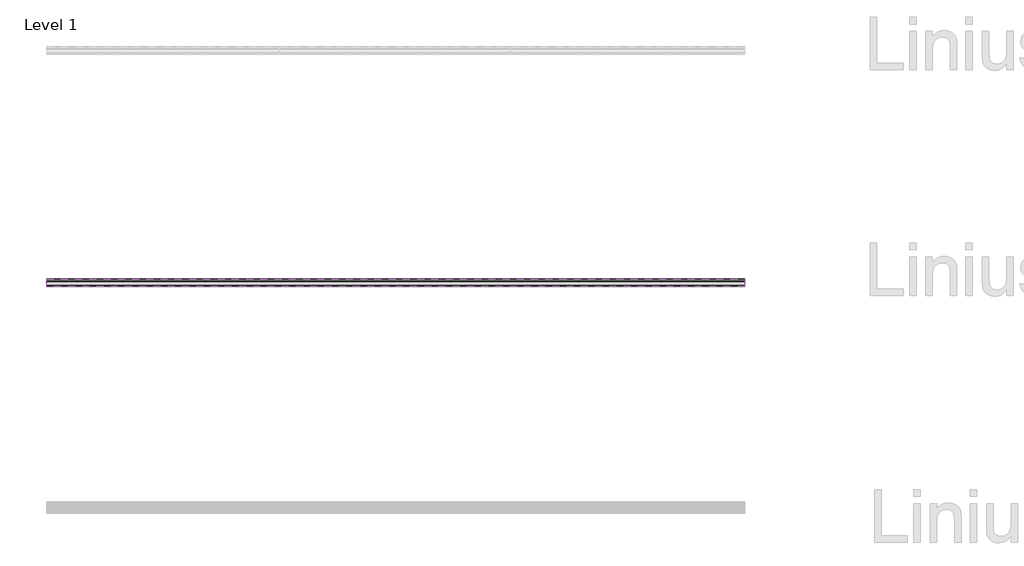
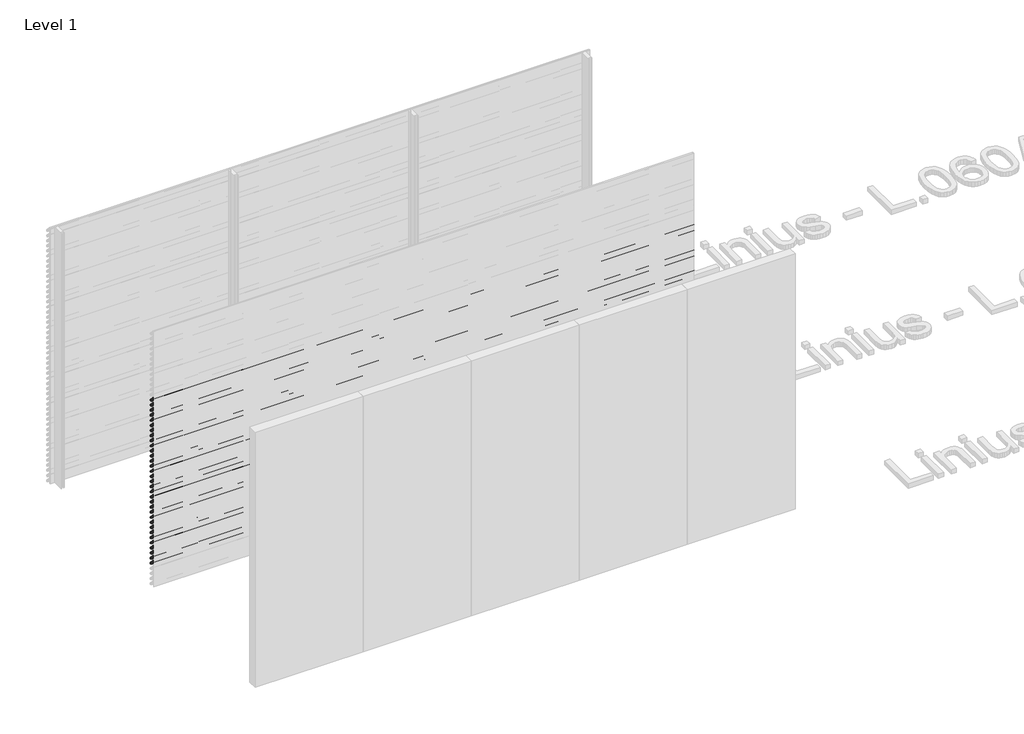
# One storey, part 37 of 153: 33 proxies.
"""IFC4 building model written with IfcOpenShell, lengths in millimetres."""

from ifc_helpers import new_model, si_unit, point, frame, frame_2d, origin, place, context, project, spatial, polyline, circle_curve, trimmed, segment, composite_curve, outline, extrude, element, save

model = new_model("IFC4")

# Units and contexts
model_context = context("Model", 3, world=origin())
ifc_project = project(units=[si_unit("LENGTHUNIT", "METRE", prefix="MILLI")], contexts=[model_context])

# Site, building, storey
site = spatial("IfcSite", under=ifc_project)
building = spatial("IfcBuilding", under=site)
storey = spatial("IfcBuildingStorey", under=building, Name="Level 1", Elevation=0.0)

# Proxies
placement = place(None, origin())
element("IfcBuildingElementProxy", 1, Name="Wall Sweeps", at=placement, inside=storey, context=model_context, shape_type="SweptSolid", body=[
    extrude(outline(composite_curve([segment(polyline([(11985.0540136, 2220.0), (11999.874191, 2218.7034025), (12049.0540136, 2165.0102749), (12049.0540136, 2153.6108187)]), True, "CONTINUOUS"), segment(trimmed(circle_curve(frame_2d((12045.7883652, 2153.897153)), 3.2781774), [point((12049.0540136, 2153.6108187))], [point((12046.4639442, 2150.6893438))], False, "CARTESIAN"), True, "CONTINUOUS"), segment(polyline([(12046.4639442, 2150.6893438), (12034.1895723, 2151.6282758), (11985.0540136, 2205.2730773), (11985.0540136, 2220.0)]), True, "CONTINUOUS")], self_intersect=False), holes=[composite_curve([segment(polyline([(11999.1621773, 2217.2599659), (11986.5540136, 2218.3630372), (11986.5540136, 2205.856213), (12034.8952036, 2153.0786805), (12046.3312542, 2152.2038762)]), True, "CONTINUOUS"), segment(trimmed(circle_curve(frame_2d((12045.7883652, 2153.897153)), 1.7781774), [point((12046.3312542, 2152.2038762))], [point((12047.5540136, 2153.6864389))], True, "CARTESIAN"), True, "CONTINUOUS"), segment(polyline([(12047.5540136, 2153.6864389), (12047.5540136, 2164.4271392), (11999.1621773, 2217.2599659)]), True, "CONTINUOUS")], self_intersect=False)]), frame((44966.6208097, 0.0, 0.0), z_axis=(1.0, 0.0, 0.0), x_axis=(0.0, 1.0, 0.0)), (0.0, 0.0, 1.0), 6000.0),
])
element("IfcBuildingElementProxy", 2, Name="Wall Sweeps", at=placement, inside=storey, context=model_context, shape_type="SweptSolid", body=[
    extrude(outline(composite_curve([segment(polyline([(11985.0540136, 2160.0), (11999.874191, 2158.7034025), (12049.0540136, 2105.0102749), (12049.0540136, 2093.6108187)]), True, "CONTINUOUS"), segment(trimmed(circle_curve(frame_2d((12045.7883652, 2093.897153)), 3.2781774), [point((12049.0540136, 2093.6108187))], [point((12046.4639442, 2090.6893438))], False, "CARTESIAN"), True, "CONTINUOUS"), segment(polyline([(12046.4639442, 2090.6893438), (12034.1895723, 2091.6282758), (11985.0540136, 2145.2730773), (11985.0540136, 2160.0)]), True, "CONTINUOUS")], self_intersect=False), holes=[composite_curve([segment(polyline([(11999.1621773, 2157.2599659), (11986.5540136, 2158.3630372), (11986.5540136, 2145.856213), (12034.8952036, 2093.0786805), (12046.3312542, 2092.2038762)]), True, "CONTINUOUS"), segment(trimmed(circle_curve(frame_2d((12045.7883652, 2093.897153)), 1.7781774), [point((12046.3312542, 2092.2038762))], [point((12047.5540136, 2093.6864389))], True, "CARTESIAN"), True, "CONTINUOUS"), segment(polyline([(12047.5540136, 2093.6864389), (12047.5540136, 2104.4271392), (11999.1621773, 2157.2599659)]), True, "CONTINUOUS")], self_intersect=False)]), frame((44966.6208097, 0.0, 0.0), z_axis=(1.0, 0.0, 0.0), x_axis=(0.0, 1.0, 0.0)), (0.0, 0.0, 1.0), 6000.0),
])
element("IfcBuildingElementProxy", 3, Name="Wall Sweeps", at=placement, inside=storey, context=model_context, shape_type="SweptSolid", body=[
    extrude(outline(composite_curve([segment(polyline([(11985.0540136, 2100.0), (11999.874191, 2098.7034025), (12049.0540136, 2045.0102749), (12049.0540136, 2033.6108187)]), True, "CONTINUOUS"), segment(trimmed(circle_curve(frame_2d((12045.7883652, 2033.897153)), 3.2781774), [point((12049.0540136, 2033.6108187))], [point((12046.4639442, 2030.6893438))], False, "CARTESIAN"), True, "CONTINUOUS"), segment(polyline([(12046.4639442, 2030.6893438), (12034.1895723, 2031.6282758), (11985.0540136, 2085.2730773), (11985.0540136, 2100.0)]), True, "CONTINUOUS")], self_intersect=False), holes=[composite_curve([segment(polyline([(11999.1621773, 2097.2599659), (11986.5540136, 2098.3630372), (11986.5540136, 2085.856213), (12034.8952036, 2033.0786805), (12046.3312542, 2032.2038762)]), True, "CONTINUOUS"), segment(trimmed(circle_curve(frame_2d((12045.7883652, 2033.897153)), 1.7781774), [point((12046.3312542, 2032.2038762))], [point((12047.5540136, 2033.6864389))], True, "CARTESIAN"), True, "CONTINUOUS"), segment(polyline([(12047.5540136, 2033.6864389), (12047.5540136, 2044.4271392), (11999.1621773, 2097.2599659)]), True, "CONTINUOUS")], self_intersect=False)]), frame((44966.6208097, 0.0, 0.0), z_axis=(1.0, 0.0, 0.0), x_axis=(0.0, 1.0, 0.0)), (0.0, 0.0, 1.0), 6000.0),
])
element("IfcBuildingElementProxy", 4, Name="Wall Sweeps", at=placement, inside=storey, context=model_context, shape_type="SweptSolid", body=[
    extrude(outline(composite_curve([segment(polyline([(11985.0540136, 2040.0), (11999.874191, 2038.7034025), (12049.0540136, 1985.0102749), (12049.0540136, 1973.6108187)]), True, "CONTINUOUS"), segment(trimmed(circle_curve(frame_2d((12045.7883652, 1973.897153)), 3.2781774), [point((12049.0540136, 1973.6108187))], [point((12046.4639442, 1970.6893438))], False, "CARTESIAN"), True, "CONTINUOUS"), segment(polyline([(12046.4639442, 1970.6893438), (12034.1895723, 1971.6282758), (11985.0540136, 2025.2730773), (11985.0540136, 2040.0)]), True, "CONTINUOUS")], self_intersect=False), holes=[composite_curve([segment(polyline([(11999.1621773, 2037.2599659), (11986.5540136, 2038.3630372), (11986.5540136, 2025.856213), (12034.8952036, 1973.0786805), (12046.3312542, 1972.2038762)]), True, "CONTINUOUS"), segment(trimmed(circle_curve(frame_2d((12045.7883652, 1973.897153)), 1.7781774), [point((12046.3312542, 1972.2038762))], [point((12047.5540136, 1973.6864389))], True, "CARTESIAN"), True, "CONTINUOUS"), segment(polyline([(12047.5540136, 1973.6864389), (12047.5540136, 1984.4271392), (11999.1621773, 2037.2599659)]), True, "CONTINUOUS")], self_intersect=False)]), frame((44966.6208097, 0.0, 0.0), z_axis=(1.0, 0.0, 0.0), x_axis=(0.0, 1.0, 0.0)), (0.0, 0.0, 1.0), 6000.0),
])
element("IfcBuildingElementProxy", 5, Name="Wall Sweeps", at=placement, inside=storey, context=model_context, shape_type="SweptSolid", body=[
    extrude(outline(composite_curve([segment(polyline([(11985.0540136, 1980.0), (11999.874191, 1978.7034025), (12049.0540136, 1925.0102749), (12049.0540136, 1913.6108187)]), True, "CONTINUOUS"), segment(trimmed(circle_curve(frame_2d((12045.7883652, 1913.897153)), 3.2781774), [point((12049.0540136, 1913.6108187))], [point((12046.4639442, 1910.6893438))], False, "CARTESIAN"), True, "CONTINUOUS"), segment(polyline([(12046.4639442, 1910.6893438), (12034.1895723, 1911.6282758), (11985.0540136, 1965.2730773), (11985.0540136, 1980.0)]), True, "CONTINUOUS")], self_intersect=False), holes=[composite_curve([segment(polyline([(11999.1621773, 1977.2599659), (11986.5540136, 1978.3630372), (11986.5540136, 1965.856213), (12034.8952036, 1913.0786805), (12046.3312542, 1912.2038762)]), True, "CONTINUOUS"), segment(trimmed(circle_curve(frame_2d((12045.7883652, 1913.897153)), 1.7781774), [point((12046.3312542, 1912.2038762))], [point((12047.5540136, 1913.6864389))], True, "CARTESIAN"), True, "CONTINUOUS"), segment(polyline([(12047.5540136, 1913.6864389), (12047.5540136, 1924.4271392), (11999.1621773, 1977.2599659)]), True, "CONTINUOUS")], self_intersect=False)]), frame((44966.6208097, 0.0, 0.0), z_axis=(1.0, 0.0, 0.0), x_axis=(0.0, 1.0, 0.0)), (0.0, 0.0, 1.0), 6000.0),
])
element("IfcBuildingElementProxy", 6, Name="Wall Sweeps", at=placement, inside=storey, context=model_context, shape_type="SweptSolid", body=[
    extrude(outline(composite_curve([segment(polyline([(11985.0540136, 1920.0), (11999.874191, 1918.7034025), (12049.0540136, 1865.0102749), (12049.0540136, 1853.6108187)]), True, "CONTINUOUS"), segment(trimmed(circle_curve(frame_2d((12045.7883652, 1853.897153)), 3.2781774), [point((12049.0540136, 1853.6108187))], [point((12046.4639442, 1850.6893438))], False, "CARTESIAN"), True, "CONTINUOUS"), segment(polyline([(12046.4639442, 1850.6893438), (12034.1895723, 1851.6282758), (11985.0540136, 1905.2730773), (11985.0540136, 1920.0)]), True, "CONTINUOUS")], self_intersect=False), holes=[composite_curve([segment(polyline([(11999.1621773, 1917.2599659), (11986.5540136, 1918.3630372), (11986.5540136, 1905.856213), (12034.8952036, 1853.0786805), (12046.3312542, 1852.2038762)]), True, "CONTINUOUS"), segment(trimmed(circle_curve(frame_2d((12045.7883652, 1853.897153)), 1.7781774), [point((12046.3312542, 1852.2038762))], [point((12047.5540136, 1853.6864389))], True, "CARTESIAN"), True, "CONTINUOUS"), segment(polyline([(12047.5540136, 1853.6864389), (12047.5540136, 1864.4271392), (11999.1621773, 1917.2599659)]), True, "CONTINUOUS")], self_intersect=False)]), frame((44966.6208097, 0.0, 0.0), z_axis=(1.0, 0.0, 0.0), x_axis=(0.0, 1.0, 0.0)), (0.0, 0.0, 1.0), 6000.0),
])
element("IfcBuildingElementProxy", 7, Name="Wall Sweeps", at=placement, inside=storey, context=model_context, shape_type="SweptSolid", body=[
    extrude(outline(composite_curve([segment(polyline([(11985.0540136, 1860.0), (11999.874191, 1858.7034025), (12049.0540136, 1805.0102749), (12049.0540136, 1793.6108187)]), True, "CONTINUOUS"), segment(trimmed(circle_curve(frame_2d((12045.7883652, 1793.897153)), 3.2781774), [point((12049.0540136, 1793.6108187))], [point((12046.4639442, 1790.6893438))], False, "CARTESIAN"), True, "CONTINUOUS"), segment(polyline([(12046.4639442, 1790.6893438), (12034.1895723, 1791.6282758), (11985.0540136, 1845.2730773), (11985.0540136, 1860.0)]), True, "CONTINUOUS")], self_intersect=False), holes=[composite_curve([segment(polyline([(11999.1621773, 1857.2599659), (11986.5540136, 1858.3630372), (11986.5540136, 1845.856213), (12034.8952036, 1793.0786805), (12046.3312542, 1792.2038762)]), True, "CONTINUOUS"), segment(trimmed(circle_curve(frame_2d((12045.7883652, 1793.897153)), 1.7781774), [point((12046.3312542, 1792.2038762))], [point((12047.5540136, 1793.6864389))], True, "CARTESIAN"), True, "CONTINUOUS"), segment(polyline([(12047.5540136, 1793.6864389), (12047.5540136, 1804.4271392), (11999.1621773, 1857.2599659)]), True, "CONTINUOUS")], self_intersect=False)]), frame((44966.6208097, 0.0, 0.0), z_axis=(1.0, 0.0, 0.0), x_axis=(0.0, 1.0, 0.0)), (0.0, 0.0, 1.0), 6000.0),
])
element("IfcBuildingElementProxy", 8, Name="Wall Sweeps", at=placement, inside=storey, context=model_context, shape_type="SweptSolid", body=[
    extrude(outline(composite_curve([segment(polyline([(11985.0540136, 1800.0), (11999.874191, 1798.7034025), (12049.0540136, 1745.0102749), (12049.0540136, 1733.6108187)]), True, "CONTINUOUS"), segment(trimmed(circle_curve(frame_2d((12045.7883652, 1733.897153)), 3.2781774), [point((12049.0540136, 1733.6108187))], [point((12046.4639442, 1730.6893438))], False, "CARTESIAN"), True, "CONTINUOUS"), segment(polyline([(12046.4639442, 1730.6893438), (12034.1895723, 1731.6282758), (11985.0540136, 1785.2730773), (11985.0540136, 1800.0)]), True, "CONTINUOUS")], self_intersect=False), holes=[composite_curve([segment(polyline([(11999.1621773, 1797.2599659), (11986.5540136, 1798.3630372), (11986.5540136, 1785.856213), (12034.8952036, 1733.0786805), (12046.3312542, 1732.2038762)]), True, "CONTINUOUS"), segment(trimmed(circle_curve(frame_2d((12045.7883652, 1733.897153)), 1.7781774), [point((12046.3312542, 1732.2038762))], [point((12047.5540136, 1733.6864389))], True, "CARTESIAN"), True, "CONTINUOUS"), segment(polyline([(12047.5540136, 1733.6864389), (12047.5540136, 1744.4271392), (11999.1621773, 1797.2599659)]), True, "CONTINUOUS")], self_intersect=False)]), frame((44966.6208097, 0.0, 0.0), z_axis=(1.0, 0.0, 0.0), x_axis=(0.0, 1.0, 0.0)), (0.0, 0.0, 1.0), 6000.0),
])
element("IfcBuildingElementProxy", 9, Name="Wall Sweeps", at=placement, inside=storey, context=model_context, shape_type="SweptSolid", body=[
    extrude(outline(composite_curve([segment(polyline([(11985.0540136, 1740.0), (11999.874191, 1738.7034025), (12049.0540136, 1685.0102749), (12049.0540136, 1673.6108187)]), True, "CONTINUOUS"), segment(trimmed(circle_curve(frame_2d((12045.7883652, 1673.897153)), 3.2781774), [point((12049.0540136, 1673.6108187))], [point((12046.4639442, 1670.6893438))], False, "CARTESIAN"), True, "CONTINUOUS"), segment(polyline([(12046.4639442, 1670.6893438), (12034.1895723, 1671.6282758), (11985.0540136, 1725.2730773), (11985.0540136, 1740.0)]), True, "CONTINUOUS")], self_intersect=False), holes=[composite_curve([segment(polyline([(11999.1621773, 1737.2599659), (11986.5540136, 1738.3630372), (11986.5540136, 1725.856213), (12034.8952036, 1673.0786805), (12046.3312542, 1672.2038762)]), True, "CONTINUOUS"), segment(trimmed(circle_curve(frame_2d((12045.7883652, 1673.897153)), 1.7781774), [point((12046.3312542, 1672.2038762))], [point((12047.5540136, 1673.6864389))], True, "CARTESIAN"), True, "CONTINUOUS"), segment(polyline([(12047.5540136, 1673.6864389), (12047.5540136, 1684.4271392), (11999.1621773, 1737.2599659)]), True, "CONTINUOUS")], self_intersect=False)]), frame((44966.6208097, 0.0, 0.0), z_axis=(1.0, 0.0, 0.0), x_axis=(0.0, 1.0, 0.0)), (0.0, 0.0, 1.0), 6000.0),
])
element("IfcBuildingElementProxy", 10, Name="Wall Sweeps", at=placement, inside=storey, context=model_context, shape_type="SweptSolid", body=[
    extrude(outline(composite_curve([segment(polyline([(11985.0540136, 1680.0), (11999.874191, 1678.7034025), (12049.0540136, 1625.0102749), (12049.0540136, 1613.6108187)]), True, "CONTINUOUS"), segment(trimmed(circle_curve(frame_2d((12045.7883652, 1613.897153)), 3.2781774), [point((12049.0540136, 1613.6108187))], [point((12046.4639442, 1610.6893438))], False, "CARTESIAN"), True, "CONTINUOUS"), segment(polyline([(12046.4639442, 1610.6893438), (12034.1895723, 1611.6282758), (11985.0540136, 1665.2730773), (11985.0540136, 1680.0)]), True, "CONTINUOUS")], self_intersect=False), holes=[composite_curve([segment(polyline([(11999.1621773, 1677.2599659), (11986.5540136, 1678.3630372), (11986.5540136, 1665.856213), (12034.8952036, 1613.0786805), (12046.3312542, 1612.2038762)]), True, "CONTINUOUS"), segment(trimmed(circle_curve(frame_2d((12045.7883652, 1613.897153)), 1.7781774), [point((12046.3312542, 1612.2038762))], [point((12047.5540136, 1613.6864389))], True, "CARTESIAN"), True, "CONTINUOUS"), segment(polyline([(12047.5540136, 1613.6864389), (12047.5540136, 1624.4271392), (11999.1621773, 1677.2599659)]), True, "CONTINUOUS")], self_intersect=False)]), frame((44966.6208097, 0.0, 0.0), z_axis=(1.0, 0.0, 0.0), x_axis=(0.0, 1.0, 0.0)), (0.0, 0.0, 1.0), 6000.0),
])
element("IfcBuildingElementProxy", 11, Name="Wall Sweeps", at=placement, inside=storey, context=model_context, shape_type="SweptSolid", body=[
    extrude(outline(composite_curve([segment(polyline([(11985.0540136, 1620.0), (11999.874191, 1618.7034025), (12049.0540136, 1565.0102749), (12049.0540136, 1553.6108187)]), True, "CONTINUOUS"), segment(trimmed(circle_curve(frame_2d((12045.7883652, 1553.897153)), 3.2781774), [point((12049.0540136, 1553.6108187))], [point((12046.4639442, 1550.6893438))], False, "CARTESIAN"), True, "CONTINUOUS"), segment(polyline([(12046.4639442, 1550.6893438), (12034.1895723, 1551.6282758), (11985.0540136, 1605.2730773), (11985.0540136, 1620.0)]), True, "CONTINUOUS")], self_intersect=False), holes=[composite_curve([segment(polyline([(11999.1621773, 1617.2599659), (11986.5540136, 1618.3630372), (11986.5540136, 1605.856213), (12034.8952036, 1553.0786805), (12046.3312542, 1552.2038762)]), True, "CONTINUOUS"), segment(trimmed(circle_curve(frame_2d((12045.7883652, 1553.897153)), 1.7781774), [point((12046.3312542, 1552.2038762))], [point((12047.5540136, 1553.6864389))], True, "CARTESIAN"), True, "CONTINUOUS"), segment(polyline([(12047.5540136, 1553.6864389), (12047.5540136, 1564.4271392), (11999.1621773, 1617.2599659)]), True, "CONTINUOUS")], self_intersect=False)]), frame((44966.6208097, 0.0, 0.0), z_axis=(1.0, 0.0, 0.0), x_axis=(0.0, 1.0, 0.0)), (0.0, 0.0, 1.0), 6000.0),
])
element("IfcBuildingElementProxy", 12, Name="Wall Sweeps", at=placement, inside=storey, context=model_context, shape_type="SweptSolid", body=[
    extrude(outline(composite_curve([segment(polyline([(11985.0540136, 1560.0), (11999.874191, 1558.7034025), (12049.0540136, 1505.0102749), (12049.0540136, 1493.6108187)]), True, "CONTINUOUS"), segment(trimmed(circle_curve(frame_2d((12045.7883652, 1493.897153)), 3.2781774), [point((12049.0540136, 1493.6108187))], [point((12046.4639442, 1490.6893438))], False, "CARTESIAN"), True, "CONTINUOUS"), segment(polyline([(12046.4639442, 1490.6893438), (12034.1895723, 1491.6282758), (11985.0540136, 1545.2730773), (11985.0540136, 1560.0)]), True, "CONTINUOUS")], self_intersect=False), holes=[composite_curve([segment(polyline([(11999.1621773, 1557.2599659), (11986.5540136, 1558.3630372), (11986.5540136, 1545.856213), (12034.8952036, 1493.0786805), (12046.3312542, 1492.2038762)]), True, "CONTINUOUS"), segment(trimmed(circle_curve(frame_2d((12045.7883652, 1493.897153)), 1.7781774), [point((12046.3312542, 1492.2038762))], [point((12047.5540136, 1493.6864389))], True, "CARTESIAN"), True, "CONTINUOUS"), segment(polyline([(12047.5540136, 1493.6864389), (12047.5540136, 1504.4271392), (11999.1621773, 1557.2599659)]), True, "CONTINUOUS")], self_intersect=False)]), frame((44966.6208097, 0.0, 0.0), z_axis=(1.0, 0.0, 0.0), x_axis=(0.0, 1.0, 0.0)), (0.0, 0.0, 1.0), 6000.0),
])
element("IfcBuildingElementProxy", 13, Name="Wall Sweeps", at=placement, inside=storey, context=model_context, shape_type="SweptSolid", body=[
    extrude(outline(composite_curve([segment(polyline([(11985.0540136, 1500.0), (11999.874191, 1498.7034025), (12049.0540136, 1445.0102749), (12049.0540136, 1433.6108187)]), True, "CONTINUOUS"), segment(trimmed(circle_curve(frame_2d((12045.7883652, 1433.897153)), 3.2781774), [point((12049.0540136, 1433.6108187))], [point((12046.4639442, 1430.6893438))], False, "CARTESIAN"), True, "CONTINUOUS"), segment(polyline([(12046.4639442, 1430.6893438), (12034.1895723, 1431.6282758), (11985.0540136, 1485.2730773), (11985.0540136, 1500.0)]), True, "CONTINUOUS")], self_intersect=False), holes=[composite_curve([segment(polyline([(11999.1621773, 1497.2599659), (11986.5540136, 1498.3630372), (11986.5540136, 1485.856213), (12034.8952036, 1433.0786805), (12046.3312542, 1432.2038762)]), True, "CONTINUOUS"), segment(trimmed(circle_curve(frame_2d((12045.7883652, 1433.897153)), 1.7781774), [point((12046.3312542, 1432.2038762))], [point((12047.5540136, 1433.6864389))], True, "CARTESIAN"), True, "CONTINUOUS"), segment(polyline([(12047.5540136, 1433.6864389), (12047.5540136, 1444.4271392), (11999.1621773, 1497.2599659)]), True, "CONTINUOUS")], self_intersect=False)]), frame((44966.6208097, 0.0, 0.0), z_axis=(1.0, 0.0, 0.0), x_axis=(0.0, 1.0, 0.0)), (0.0, 0.0, 1.0), 6000.0),
])
element("IfcBuildingElementProxy", 14, Name="Wall Sweeps", at=placement, inside=storey, context=model_context, shape_type="SweptSolid", body=[
    extrude(outline(composite_curve([segment(polyline([(11985.0540136, 1440.0), (11999.874191, 1438.7034025), (12049.0540136, 1385.0102749), (12049.0540136, 1373.6108187)]), True, "CONTINUOUS"), segment(trimmed(circle_curve(frame_2d((12045.7883652, 1373.897153)), 3.2781774), [point((12049.0540136, 1373.6108187))], [point((12046.4639442, 1370.6893438))], False, "CARTESIAN"), True, "CONTINUOUS"), segment(polyline([(12046.4639442, 1370.6893438), (12034.1895723, 1371.6282758), (11985.0540136, 1425.2730773), (11985.0540136, 1440.0)]), True, "CONTINUOUS")], self_intersect=False), holes=[composite_curve([segment(polyline([(11999.1621773, 1437.2599659), (11986.5540136, 1438.3630372), (11986.5540136, 1425.856213), (12034.8952036, 1373.0786805), (12046.3312542, 1372.2038762)]), True, "CONTINUOUS"), segment(trimmed(circle_curve(frame_2d((12045.7883652, 1373.897153)), 1.7781774), [point((12046.3312542, 1372.2038762))], [point((12047.5540136, 1373.6864389))], True, "CARTESIAN"), True, "CONTINUOUS"), segment(polyline([(12047.5540136, 1373.6864389), (12047.5540136, 1384.4271392), (11999.1621773, 1437.2599659)]), True, "CONTINUOUS")], self_intersect=False)]), frame((44966.6208097, 0.0, 0.0), z_axis=(1.0, 0.0, 0.0), x_axis=(0.0, 1.0, 0.0)), (0.0, 0.0, 1.0), 6000.0),
])
element("IfcBuildingElementProxy", 15, Name="Wall Sweeps", at=placement, inside=storey, context=model_context, shape_type="SweptSolid", body=[
    extrude(outline(composite_curve([segment(polyline([(11985.0540136, 1380.0), (11999.874191, 1378.7034025), (12049.0540136, 1325.0102749), (12049.0540136, 1313.6108187)]), True, "CONTINUOUS"), segment(trimmed(circle_curve(frame_2d((12045.7883652, 1313.897153)), 3.2781774), [point((12049.0540136, 1313.6108187))], [point((12046.4639442, 1310.6893438))], False, "CARTESIAN"), True, "CONTINUOUS"), segment(polyline([(12046.4639442, 1310.6893438), (12034.1895723, 1311.6282758), (11985.0540136, 1365.2730773), (11985.0540136, 1380.0)]), True, "CONTINUOUS")], self_intersect=False), holes=[composite_curve([segment(polyline([(11999.1621773, 1377.2599659), (11986.5540136, 1378.3630372), (11986.5540136, 1365.856213), (12034.8952036, 1313.0786805), (12046.3312542, 1312.2038762)]), True, "CONTINUOUS"), segment(trimmed(circle_curve(frame_2d((12045.7883652, 1313.897153)), 1.7781774), [point((12046.3312542, 1312.2038762))], [point((12047.5540136, 1313.6864389))], True, "CARTESIAN"), True, "CONTINUOUS"), segment(polyline([(12047.5540136, 1313.6864389), (12047.5540136, 1324.4271392), (11999.1621773, 1377.2599659)]), True, "CONTINUOUS")], self_intersect=False)]), frame((44966.6208097, 0.0, 0.0), z_axis=(1.0, 0.0, 0.0), x_axis=(0.0, 1.0, 0.0)), (0.0, 0.0, 1.0), 6000.0),
])
element("IfcBuildingElementProxy", 16, Name="Wall Sweeps", at=placement, inside=storey, context=model_context, shape_type="SweptSolid", body=[
    extrude(outline(composite_curve([segment(polyline([(11985.0540136, 1320.0), (11999.874191, 1318.7034025), (12049.0540136, 1265.0102749), (12049.0540136, 1253.6108187)]), True, "CONTINUOUS"), segment(trimmed(circle_curve(frame_2d((12045.7883652, 1253.897153)), 3.2781774), [point((12049.0540136, 1253.6108187))], [point((12046.4639442, 1250.6893438))], False, "CARTESIAN"), True, "CONTINUOUS"), segment(polyline([(12046.4639442, 1250.6893438), (12034.1895723, 1251.6282758), (11985.0540136, 1305.2730773), (11985.0540136, 1320.0)]), True, "CONTINUOUS")], self_intersect=False), holes=[composite_curve([segment(polyline([(11999.1621773, 1317.2599659), (11986.5540136, 1318.3630372), (11986.5540136, 1305.856213), (12034.8952036, 1253.0786805), (12046.3312542, 1252.2038762)]), True, "CONTINUOUS"), segment(trimmed(circle_curve(frame_2d((12045.7883652, 1253.897153)), 1.7781774), [point((12046.3312542, 1252.2038762))], [point((12047.5540136, 1253.6864389))], True, "CARTESIAN"), True, "CONTINUOUS"), segment(polyline([(12047.5540136, 1253.6864389), (12047.5540136, 1264.4271392), (11999.1621773, 1317.2599659)]), True, "CONTINUOUS")], self_intersect=False)]), frame((44966.6208097, 0.0, 0.0), z_axis=(1.0, 0.0, 0.0), x_axis=(0.0, 1.0, 0.0)), (0.0, 0.0, 1.0), 6000.0),
])
element("IfcBuildingElementProxy", 17, Name="Wall Sweeps", at=placement, inside=storey, context=model_context, shape_type="SweptSolid", body=[
    extrude(outline(composite_curve([segment(polyline([(11985.0540136, 1260.0), (11999.874191, 1258.7034025), (12049.0540136, 1205.0102749), (12049.0540136, 1193.6108187)]), True, "CONTINUOUS"), segment(trimmed(circle_curve(frame_2d((12045.7883652, 1193.897153)), 3.2781774), [point((12049.0540136, 1193.6108187))], [point((12046.4639442, 1190.6893438))], False, "CARTESIAN"), True, "CONTINUOUS"), segment(polyline([(12046.4639442, 1190.6893438), (12034.1895723, 1191.6282758), (11985.0540136, 1245.2730773), (11985.0540136, 1260.0)]), True, "CONTINUOUS")], self_intersect=False), holes=[composite_curve([segment(polyline([(11999.1621773, 1257.2599659), (11986.5540136, 1258.3630372), (11986.5540136, 1245.856213), (12034.8952036, 1193.0786805), (12046.3312542, 1192.2038762)]), True, "CONTINUOUS"), segment(trimmed(circle_curve(frame_2d((12045.7883652, 1193.897153)), 1.7781774), [point((12046.3312542, 1192.2038762))], [point((12047.5540136, 1193.6864389))], True, "CARTESIAN"), True, "CONTINUOUS"), segment(polyline([(12047.5540136, 1193.6864389), (12047.5540136, 1204.4271392), (11999.1621773, 1257.2599659)]), True, "CONTINUOUS")], self_intersect=False)]), frame((44966.6208097, 0.0, 0.0), z_axis=(1.0, 0.0, 0.0), x_axis=(0.0, 1.0, 0.0)), (0.0, 0.0, 1.0), 6000.0),
])
element("IfcBuildingElementProxy", 18, Name="Wall Sweeps", at=placement, inside=storey, context=model_context, shape_type="SweptSolid", body=[
    extrude(outline(composite_curve([segment(polyline([(11985.0540136, 1200.0), (11999.874191, 1198.7034025), (12049.0540136, 1145.0102749), (12049.0540136, 1133.6108187)]), True, "CONTINUOUS"), segment(trimmed(circle_curve(frame_2d((12045.7883652, 1133.897153)), 3.2781774), [point((12049.0540136, 1133.6108187))], [point((12046.4639442, 1130.6893438))], False, "CARTESIAN"), True, "CONTINUOUS"), segment(polyline([(12046.4639442, 1130.6893438), (12034.1895723, 1131.6282758), (11985.0540136, 1185.2730773), (11985.0540136, 1200.0)]), True, "CONTINUOUS")], self_intersect=False), holes=[composite_curve([segment(polyline([(11999.1621773, 1197.2599659), (11986.5540136, 1198.3630372), (11986.5540136, 1185.856213), (12034.8952036, 1133.0786805), (12046.3312542, 1132.2038762)]), True, "CONTINUOUS"), segment(trimmed(circle_curve(frame_2d((12045.7883652, 1133.897153)), 1.7781774), [point((12046.3312542, 1132.2038762))], [point((12047.5540136, 1133.6864389))], True, "CARTESIAN"), True, "CONTINUOUS"), segment(polyline([(12047.5540136, 1133.6864389), (12047.5540136, 1144.4271392), (11999.1621773, 1197.2599659)]), True, "CONTINUOUS")], self_intersect=False)]), frame((44966.6208097, 0.0, 0.0), z_axis=(1.0, 0.0, 0.0), x_axis=(0.0, 1.0, 0.0)), (0.0, 0.0, 1.0), 6000.0),
])
element("IfcBuildingElementProxy", 19, Name="Wall Sweeps", at=placement, inside=storey, context=model_context, shape_type="SweptSolid", body=[
    extrude(outline(composite_curve([segment(polyline([(11985.0540136, 1140.0), (11999.874191, 1138.7034025), (12049.0540136, 1085.0102749), (12049.0540136, 1073.6108187)]), True, "CONTINUOUS"), segment(trimmed(circle_curve(frame_2d((12045.7883652, 1073.897153)), 3.2781774), [point((12049.0540136, 1073.6108187))], [point((12046.4639442, 1070.6893438))], False, "CARTESIAN"), True, "CONTINUOUS"), segment(polyline([(12046.4639442, 1070.6893438), (12034.1895723, 1071.6282758), (11985.0540136, 1125.2730773), (11985.0540136, 1140.0)]), True, "CONTINUOUS")], self_intersect=False), holes=[composite_curve([segment(polyline([(11999.1621773, 1137.2599659), (11986.5540136, 1138.3630372), (11986.5540136, 1125.856213), (12034.8952036, 1073.0786805), (12046.3312542, 1072.2038762)]), True, "CONTINUOUS"), segment(trimmed(circle_curve(frame_2d((12045.7883652, 1073.897153)), 1.7781774), [point((12046.3312542, 1072.2038762))], [point((12047.5540136, 1073.6864389))], True, "CARTESIAN"), True, "CONTINUOUS"), segment(polyline([(12047.5540136, 1073.6864389), (12047.5540136, 1084.4271392), (11999.1621773, 1137.2599659)]), True, "CONTINUOUS")], self_intersect=False)]), frame((44966.6208097, 0.0, 0.0), z_axis=(1.0, 0.0, 0.0), x_axis=(0.0, 1.0, 0.0)), (0.0, 0.0, 1.0), 6000.0),
])
element("IfcBuildingElementProxy", 20, Name="Wall Sweeps", at=placement, inside=storey, context=model_context, shape_type="SweptSolid", body=[
    extrude(outline(composite_curve([segment(polyline([(11985.0540136, 1080.0), (11999.874191, 1078.7034025), (12049.0540136, 1025.0102749), (12049.0540136, 1013.6108187)]), True, "CONTINUOUS"), segment(trimmed(circle_curve(frame_2d((12045.7883652, 1013.897153)), 3.2781774), [point((12049.0540136, 1013.6108187))], [point((12046.4639442, 1010.6893438))], False, "CARTESIAN"), True, "CONTINUOUS"), segment(polyline([(12046.4639442, 1010.6893438), (12034.1895723, 1011.6282758), (11985.0540136, 1065.2730773), (11985.0540136, 1080.0)]), True, "CONTINUOUS")], self_intersect=False), holes=[composite_curve([segment(polyline([(11999.1621773, 1077.2599659), (11986.5540136, 1078.3630372), (11986.5540136, 1065.856213), (12034.8952036, 1013.0786805), (12046.3312542, 1012.2038762)]), True, "CONTINUOUS"), segment(trimmed(circle_curve(frame_2d((12045.7883652, 1013.897153)), 1.7781774), [point((12046.3312542, 1012.2038762))], [point((12047.5540136, 1013.6864389))], True, "CARTESIAN"), True, "CONTINUOUS"), segment(polyline([(12047.5540136, 1013.6864389), (12047.5540136, 1024.4271392), (11999.1621773, 1077.2599659)]), True, "CONTINUOUS")], self_intersect=False)]), frame((44966.6208097, 0.0, 0.0), z_axis=(1.0, 0.0, 0.0), x_axis=(0.0, 1.0, 0.0)), (0.0, 0.0, 1.0), 6000.0),
])
element("IfcBuildingElementProxy", 21, Name="Wall Sweeps", at=placement, inside=storey, context=model_context, shape_type="SweptSolid", body=[
    extrude(outline(composite_curve([segment(polyline([(11985.0540136, 1020.0), (11999.874191, 1018.7034025), (12049.0540136, 965.0102749), (12049.0540136, 953.6108187)]), True, "CONTINUOUS"), segment(trimmed(circle_curve(frame_2d((12045.7883652, 953.897153)), 3.2781774), [point((12049.0540136, 953.6108187))], [point((12046.4639442, 950.6893438))], False, "CARTESIAN"), True, "CONTINUOUS"), segment(polyline([(12046.4639442, 950.6893438), (12034.1895723, 951.6282758), (11985.0540136, 1005.2730773), (11985.0540136, 1020.0)]), True, "CONTINUOUS")], self_intersect=False), holes=[composite_curve([segment(polyline([(11999.1621773, 1017.2599659), (11986.5540136, 1018.3630372), (11986.5540136, 1005.856213), (12034.8952036, 953.0786805), (12046.3312542, 952.2038762)]), True, "CONTINUOUS"), segment(trimmed(circle_curve(frame_2d((12045.7883652, 953.897153)), 1.7781774), [point((12046.3312542, 952.2038762))], [point((12047.5540136, 953.6864389))], True, "CARTESIAN"), True, "CONTINUOUS"), segment(polyline([(12047.5540136, 953.6864389), (12047.5540136, 964.4271392), (11999.1621773, 1017.2599659)]), True, "CONTINUOUS")], self_intersect=False)]), frame((44966.6208097, 0.0, 0.0), z_axis=(1.0, 0.0, 0.0), x_axis=(0.0, 1.0, 0.0)), (0.0, 0.0, 1.0), 6000.0),
])
element("IfcBuildingElementProxy", 22, Name="Wall Sweeps", at=placement, inside=storey, context=model_context, shape_type="SweptSolid", body=[
    extrude(outline(composite_curve([segment(polyline([(11985.0540136, 960.0), (11999.874191, 958.7034025), (12049.0540136, 905.0102749), (12049.0540136, 893.6108187)]), True, "CONTINUOUS"), segment(trimmed(circle_curve(frame_2d((12045.7883652, 893.897153)), 3.2781774), [point((12049.0540136, 893.6108187))], [point((12046.4639442, 890.6893438))], False, "CARTESIAN"), True, "CONTINUOUS"), segment(polyline([(12046.4639442, 890.6893438), (12034.1895723, 891.6282758), (11985.0540136, 945.2730773), (11985.0540136, 960.0)]), True, "CONTINUOUS")], self_intersect=False), holes=[composite_curve([segment(polyline([(11999.1621773, 957.2599659), (11986.5540136, 958.3630372), (11986.5540136, 945.856213), (12034.8952036, 893.0786805), (12046.3312542, 892.2038762)]), True, "CONTINUOUS"), segment(trimmed(circle_curve(frame_2d((12045.7883652, 893.897153)), 1.7781774), [point((12046.3312542, 892.2038762))], [point((12047.5540136, 893.6864389))], True, "CARTESIAN"), True, "CONTINUOUS"), segment(polyline([(12047.5540136, 893.6864389), (12047.5540136, 904.4271392), (11999.1621773, 957.2599659)]), True, "CONTINUOUS")], self_intersect=False)]), frame((44966.6208097, 0.0, 0.0), z_axis=(1.0, 0.0, 0.0), x_axis=(0.0, 1.0, 0.0)), (0.0, 0.0, 1.0), 6000.0),
])
element("IfcBuildingElementProxy", 23, Name="Wall Sweeps", at=placement, inside=storey, context=model_context, shape_type="SweptSolid", body=[
    extrude(outline(composite_curve([segment(polyline([(11985.0540136, 900.0), (11999.874191, 898.7034025), (12049.0540136, 845.0102749), (12049.0540136, 833.6108187)]), True, "CONTINUOUS"), segment(trimmed(circle_curve(frame_2d((12045.7883652, 833.897153)), 3.2781774), [point((12049.0540136, 833.6108187))], [point((12046.4639442, 830.6893438))], False, "CARTESIAN"), True, "CONTINUOUS"), segment(polyline([(12046.4639442, 830.6893438), (12034.1895723, 831.6282758), (11985.0540136, 885.2730773), (11985.0540136, 900.0)]), True, "CONTINUOUS")], self_intersect=False), holes=[composite_curve([segment(polyline([(11999.1621773, 897.2599659), (11986.5540136, 898.3630372), (11986.5540136, 885.856213), (12034.8952036, 833.0786805), (12046.3312542, 832.2038762)]), True, "CONTINUOUS"), segment(trimmed(circle_curve(frame_2d((12045.7883652, 833.897153)), 1.7781774), [point((12046.3312542, 832.2038762))], [point((12047.5540136, 833.6864389))], True, "CARTESIAN"), True, "CONTINUOUS"), segment(polyline([(12047.5540136, 833.6864389), (12047.5540136, 844.4271392), (11999.1621773, 897.2599659)]), True, "CONTINUOUS")], self_intersect=False)]), frame((44966.6208097, 0.0, 0.0), z_axis=(1.0, 0.0, 0.0), x_axis=(0.0, 1.0, 0.0)), (0.0, 0.0, 1.0), 6000.0),
])
element("IfcBuildingElementProxy", 24, Name="Wall Sweeps", at=placement, inside=storey, context=model_context, shape_type="SweptSolid", body=[
    extrude(outline(composite_curve([segment(polyline([(11985.0540136, 840.0), (11999.874191, 838.7034025), (12049.0540136, 785.0102749), (12049.0540136, 773.6108187)]), True, "CONTINUOUS"), segment(trimmed(circle_curve(frame_2d((12045.7883652, 773.897153)), 3.2781774), [point((12049.0540136, 773.6108187))], [point((12046.4639442, 770.6893438))], False, "CARTESIAN"), True, "CONTINUOUS"), segment(polyline([(12046.4639442, 770.6893438), (12034.1895723, 771.6282758), (11985.0540136, 825.2730773), (11985.0540136, 840.0)]), True, "CONTINUOUS")], self_intersect=False), holes=[composite_curve([segment(polyline([(11999.1621773, 837.2599659), (11986.5540136, 838.3630372), (11986.5540136, 825.856213), (12034.8952036, 773.0786805), (12046.3312542, 772.2038762)]), True, "CONTINUOUS"), segment(trimmed(circle_curve(frame_2d((12045.7883652, 773.897153)), 1.7781774), [point((12046.3312542, 772.2038762))], [point((12047.5540136, 773.6864389))], True, "CARTESIAN"), True, "CONTINUOUS"), segment(polyline([(12047.5540136, 773.6864389), (12047.5540136, 784.4271392), (11999.1621773, 837.2599659)]), True, "CONTINUOUS")], self_intersect=False)]), frame((44966.6208097, 0.0, 0.0), z_axis=(1.0, 0.0, 0.0), x_axis=(0.0, 1.0, 0.0)), (0.0, 0.0, 1.0), 6000.0),
])
element("IfcBuildingElementProxy", 25, Name="Wall Sweeps", at=placement, inside=storey, context=model_context, shape_type="SweptSolid", body=[
    extrude(outline(composite_curve([segment(polyline([(11985.0540136, 780.0), (11999.874191, 778.7034025), (12049.0540136, 725.0102749), (12049.0540136, 713.6108187)]), True, "CONTINUOUS"), segment(trimmed(circle_curve(frame_2d((12045.7883652, 713.897153)), 3.2781774), [point((12049.0540136, 713.6108187))], [point((12046.4639442, 710.6893438))], False, "CARTESIAN"), True, "CONTINUOUS"), segment(polyline([(12046.4639442, 710.6893438), (12034.1895723, 711.6282758), (11985.0540136, 765.2730773), (11985.0540136, 780.0)]), True, "CONTINUOUS")], self_intersect=False), holes=[composite_curve([segment(polyline([(11999.1621773, 777.2599659), (11986.5540136, 778.3630372), (11986.5540136, 765.856213), (12034.8952036, 713.0786805), (12046.3312542, 712.2038762)]), True, "CONTINUOUS"), segment(trimmed(circle_curve(frame_2d((12045.7883652, 713.897153)), 1.7781774), [point((12046.3312542, 712.2038762))], [point((12047.5540136, 713.6864389))], True, "CARTESIAN"), True, "CONTINUOUS"), segment(polyline([(12047.5540136, 713.6864389), (12047.5540136, 724.4271392), (11999.1621773, 777.2599659)]), True, "CONTINUOUS")], self_intersect=False)]), frame((44966.6208097, 0.0, 0.0), z_axis=(1.0, 0.0, 0.0), x_axis=(0.0, 1.0, 0.0)), (0.0, 0.0, 1.0), 6000.0),
])
element("IfcBuildingElementProxy", 26, Name="Wall Sweeps", at=placement, inside=storey, context=model_context, shape_type="SweptSolid", body=[
    extrude(outline(composite_curve([segment(polyline([(11985.0540136, 720.0), (11999.874191, 718.7034025), (12049.0540136, 665.0102749), (12049.0540136, 653.6108187)]), True, "CONTINUOUS"), segment(trimmed(circle_curve(frame_2d((12045.7883652, 653.897153)), 3.2781774), [point((12049.0540136, 653.6108187))], [point((12046.4639442, 650.6893438))], False, "CARTESIAN"), True, "CONTINUOUS"), segment(polyline([(12046.4639442, 650.6893438), (12034.1895723, 651.6282758), (11985.0540136, 705.2730773), (11985.0540136, 720.0)]), True, "CONTINUOUS")], self_intersect=False), holes=[composite_curve([segment(polyline([(11999.1621773, 717.2599659), (11986.5540136, 718.3630372), (11986.5540136, 705.856213), (12034.8952036, 653.0786805), (12046.3312542, 652.2038762)]), True, "CONTINUOUS"), segment(trimmed(circle_curve(frame_2d((12045.7883652, 653.897153)), 1.7781774), [point((12046.3312542, 652.2038762))], [point((12047.5540136, 653.6864389))], True, "CARTESIAN"), True, "CONTINUOUS"), segment(polyline([(12047.5540136, 653.6864389), (12047.5540136, 664.4271392), (11999.1621773, 717.2599659)]), True, "CONTINUOUS")], self_intersect=False)]), frame((44966.6208097, 0.0, 0.0), z_axis=(1.0, 0.0, 0.0), x_axis=(0.0, 1.0, 0.0)), (0.0, 0.0, 1.0), 6000.0),
])
element("IfcBuildingElementProxy", 27, Name="Wall Sweeps", at=placement, inside=storey, context=model_context, shape_type="SweptSolid", body=[
    extrude(outline(composite_curve([segment(polyline([(11985.0540136, 660.0), (11999.874191, 658.7034025), (12049.0540136, 605.0102749), (12049.0540136, 593.6108187)]), True, "CONTINUOUS"), segment(trimmed(circle_curve(frame_2d((12045.7883652, 593.897153)), 3.2781774), [point((12049.0540136, 593.6108187))], [point((12046.4639442, 590.6893438))], False, "CARTESIAN"), True, "CONTINUOUS"), segment(polyline([(12046.4639442, 590.6893438), (12034.1895723, 591.6282758), (11985.0540136, 645.2730773), (11985.0540136, 660.0)]), True, "CONTINUOUS")], self_intersect=False), holes=[composite_curve([segment(polyline([(11999.1621773, 657.2599659), (11986.5540136, 658.3630372), (11986.5540136, 645.856213), (12034.8952036, 593.0786805), (12046.3312542, 592.2038762)]), True, "CONTINUOUS"), segment(trimmed(circle_curve(frame_2d((12045.7883652, 593.897153)), 1.7781774), [point((12046.3312542, 592.2038762))], [point((12047.5540136, 593.6864389))], True, "CARTESIAN"), True, "CONTINUOUS"), segment(polyline([(12047.5540136, 593.6864389), (12047.5540136, 604.4271392), (11999.1621773, 657.2599659)]), True, "CONTINUOUS")], self_intersect=False)]), frame((44966.6208097, 0.0, 0.0), z_axis=(1.0, 0.0, 0.0), x_axis=(0.0, 1.0, 0.0)), (0.0, 0.0, 1.0), 6000.0),
])
element("IfcBuildingElementProxy", 28, Name="Wall Sweeps", at=placement, inside=storey, context=model_context, shape_type="SweptSolid", body=[
    extrude(outline(composite_curve([segment(polyline([(11985.0540136, 600.0), (11999.874191, 598.7034025), (12049.0540136, 545.0102749), (12049.0540136, 533.6108187)]), True, "CONTINUOUS"), segment(trimmed(circle_curve(frame_2d((12045.7883652, 533.897153)), 3.2781774), [point((12049.0540136, 533.6108187))], [point((12046.4639442, 530.6893438))], False, "CARTESIAN"), True, "CONTINUOUS"), segment(polyline([(12046.4639442, 530.6893438), (12034.1895723, 531.6282758), (11985.0540136, 585.2730773), (11985.0540136, 600.0)]), True, "CONTINUOUS")], self_intersect=False), holes=[composite_curve([segment(polyline([(11999.1621773, 597.2599659), (11986.5540136, 598.3630372), (11986.5540136, 585.856213), (12034.8952036, 533.0786805), (12046.3312542, 532.2038762)]), True, "CONTINUOUS"), segment(trimmed(circle_curve(frame_2d((12045.7883652, 533.897153)), 1.7781774), [point((12046.3312542, 532.2038762))], [point((12047.5540136, 533.6864389))], True, "CARTESIAN"), True, "CONTINUOUS"), segment(polyline([(12047.5540136, 533.6864389), (12047.5540136, 544.4271392), (11999.1621773, 597.2599659)]), True, "CONTINUOUS")], self_intersect=False)]), frame((44966.6208097, 0.0, 0.0), z_axis=(1.0, 0.0, 0.0), x_axis=(0.0, 1.0, 0.0)), (0.0, 0.0, 1.0), 6000.0),
])
element("IfcBuildingElementProxy", 29, Name="Wall Sweeps", at=placement, inside=storey, context=model_context, shape_type="SweptSolid", body=[
    extrude(outline(composite_curve([segment(polyline([(11985.0540136, 540.0), (11999.874191, 538.7034025), (12049.0540136, 485.0102749), (12049.0540136, 473.6108187)]), True, "CONTINUOUS"), segment(trimmed(circle_curve(frame_2d((12045.7883652, 473.897153)), 3.2781774), [point((12049.0540136, 473.6108187))], [point((12046.4639442, 470.6893438))], False, "CARTESIAN"), True, "CONTINUOUS"), segment(polyline([(12046.4639442, 470.6893438), (12034.1895723, 471.6282758), (11985.0540136, 525.2730773), (11985.0540136, 540.0)]), True, "CONTINUOUS")], self_intersect=False), holes=[composite_curve([segment(polyline([(11999.1621773, 537.2599659), (11986.5540136, 538.3630372), (11986.5540136, 525.856213), (12034.8952036, 473.0786805), (12046.3312542, 472.2038762)]), True, "CONTINUOUS"), segment(trimmed(circle_curve(frame_2d((12045.7883652, 473.897153)), 1.7781774), [point((12046.3312542, 472.2038762))], [point((12047.5540136, 473.6864389))], True, "CARTESIAN"), True, "CONTINUOUS"), segment(polyline([(12047.5540136, 473.6864389), (12047.5540136, 484.4271392), (11999.1621773, 537.2599659)]), True, "CONTINUOUS")], self_intersect=False)]), frame((44966.6208097, 0.0, 0.0), z_axis=(1.0, 0.0, 0.0), x_axis=(0.0, 1.0, 0.0)), (0.0, 0.0, 1.0), 6000.0),
])
element("IfcBuildingElementProxy", 30, Name="Wall Sweeps", at=placement, inside=storey, context=model_context, shape_type="SweptSolid", body=[
    extrude(outline(composite_curve([segment(polyline([(11985.0540136, 480.0), (11999.874191, 478.7034025), (12049.0540136, 425.0102749), (12049.0540136, 413.6108187)]), True, "CONTINUOUS"), segment(trimmed(circle_curve(frame_2d((12045.7883652, 413.897153)), 3.2781774), [point((12049.0540136, 413.6108187))], [point((12046.4639442, 410.6893438))], False, "CARTESIAN"), True, "CONTINUOUS"), segment(polyline([(12046.4639442, 410.6893438), (12034.1895723, 411.6282758), (11985.0540136, 465.2730773), (11985.0540136, 480.0)]), True, "CONTINUOUS")], self_intersect=False), holes=[composite_curve([segment(polyline([(11999.1621773, 477.2599659), (11986.5540136, 478.3630372), (11986.5540136, 465.856213), (12034.8952036, 413.0786805), (12046.3312542, 412.2038762)]), True, "CONTINUOUS"), segment(trimmed(circle_curve(frame_2d((12045.7883652, 413.897153)), 1.7781774), [point((12046.3312542, 412.2038762))], [point((12047.5540136, 413.6864389))], True, "CARTESIAN"), True, "CONTINUOUS"), segment(polyline([(12047.5540136, 413.6864389), (12047.5540136, 424.4271392), (11999.1621773, 477.2599659)]), True, "CONTINUOUS")], self_intersect=False)]), frame((44966.6208097, 0.0, 0.0), z_axis=(1.0, 0.0, 0.0), x_axis=(0.0, 1.0, 0.0)), (0.0, 0.0, 1.0), 6000.0),
])
element("IfcBuildingElementProxy", 31, Name="Wall Sweeps", at=placement, inside=storey, context=model_context, shape_type="SweptSolid", body=[
    extrude(outline(composite_curve([segment(polyline([(11985.0540136, 420.0), (11999.874191, 418.7034025), (12049.0540136, 365.0102749), (12049.0540136, 353.6108187)]), True, "CONTINUOUS"), segment(trimmed(circle_curve(frame_2d((12045.7883652, 353.897153)), 3.2781774), [point((12049.0540136, 353.6108187))], [point((12046.4639442, 350.6893438))], False, "CARTESIAN"), True, "CONTINUOUS"), segment(polyline([(12046.4639442, 350.6893438), (12034.1895723, 351.6282758), (11985.0540136, 405.2730773), (11985.0540136, 420.0)]), True, "CONTINUOUS")], self_intersect=False), holes=[composite_curve([segment(polyline([(11999.1621773, 417.2599659), (11986.5540136, 418.3630372), (11986.5540136, 405.856213), (12034.8952036, 353.0786805), (12046.3312542, 352.2038762)]), True, "CONTINUOUS"), segment(trimmed(circle_curve(frame_2d((12045.7883652, 353.897153)), 1.7781774), [point((12046.3312542, 352.2038762))], [point((12047.5540136, 353.6864389))], True, "CARTESIAN"), True, "CONTINUOUS"), segment(polyline([(12047.5540136, 353.6864389), (12047.5540136, 364.4271392), (11999.1621773, 417.2599659)]), True, "CONTINUOUS")], self_intersect=False)]), frame((44966.6208097, 0.0, 0.0), z_axis=(1.0, 0.0, 0.0), x_axis=(0.0, 1.0, 0.0)), (0.0, 0.0, 1.0), 6000.0),
])
element("IfcBuildingElementProxy", 32, Name="Wall Sweeps", at=placement, inside=storey, context=model_context, shape_type="SweptSolid", body=[
    extrude(outline(composite_curve([segment(polyline([(11985.0540136, 360.0), (11999.874191, 358.7034025), (12049.0540136, 305.0102749), (12049.0540136, 293.6108187)]), True, "CONTINUOUS"), segment(trimmed(circle_curve(frame_2d((12045.7883652, 293.897153)), 3.2781774), [point((12049.0540136, 293.6108187))], [point((12046.4639442, 290.6893438))], False, "CARTESIAN"), True, "CONTINUOUS"), segment(polyline([(12046.4639442, 290.6893438), (12034.1895723, 291.6282758), (11985.0540136, 345.2730773), (11985.0540136, 360.0)]), True, "CONTINUOUS")], self_intersect=False), holes=[composite_curve([segment(polyline([(11999.1621773, 357.2599659), (11986.5540136, 358.3630372), (11986.5540136, 345.856213), (12034.8952036, 293.0786805), (12046.3312542, 292.2038762)]), True, "CONTINUOUS"), segment(trimmed(circle_curve(frame_2d((12045.7883652, 293.897153)), 1.7781774), [point((12046.3312542, 292.2038762))], [point((12047.5540136, 293.6864389))], True, "CARTESIAN"), True, "CONTINUOUS"), segment(polyline([(12047.5540136, 293.6864389), (12047.5540136, 304.4271392), (11999.1621773, 357.2599659)]), True, "CONTINUOUS")], self_intersect=False)]), frame((44966.6208097, 0.0, 0.0), z_axis=(1.0, 0.0, 0.0), x_axis=(0.0, 1.0, 0.0)), (0.0, 0.0, 1.0), 6000.0),
])
element("IfcBuildingElementProxy", 33, Name="Wall Sweeps", at=placement, inside=storey, context=model_context, shape_type="SweptSolid", body=[
    extrude(outline(composite_curve([segment(polyline([(11985.0540136, 300.0), (11999.874191, 298.7034025), (12049.0540136, 245.0102749), (12049.0540136, 233.6108187)]), True, "CONTINUOUS"), segment(trimmed(circle_curve(frame_2d((12045.7883652, 233.897153)), 3.2781774), [point((12049.0540136, 233.6108187))], [point((12046.4639442, 230.6893438))], False, "CARTESIAN"), True, "CONTINUOUS"), segment(polyline([(12046.4639442, 230.6893438), (12034.1895723, 231.6282758), (11985.0540136, 285.2730773), (11985.0540136, 300.0)]), True, "CONTINUOUS")], self_intersect=False), holes=[composite_curve([segment(polyline([(11999.1621773, 297.2599659), (11986.5540136, 298.3630372), (11986.5540136, 285.856213), (12034.8952036, 233.0786805), (12046.3312542, 232.2038762)]), True, "CONTINUOUS"), segment(trimmed(circle_curve(frame_2d((12045.7883652, 233.897153)), 1.7781774), [point((12046.3312542, 232.2038762))], [point((12047.5540136, 233.6864389))], True, "CARTESIAN"), True, "CONTINUOUS"), segment(polyline([(12047.5540136, 233.6864389), (12047.5540136, 244.4271392), (11999.1621773, 297.2599659)]), True, "CONTINUOUS")], self_intersect=False)]), frame((44966.6208097, 0.0, 0.0), z_axis=(1.0, 0.0, 0.0), x_axis=(0.0, 1.0, 0.0)), (0.0, 0.0, 1.0), 6000.0),
])

save(model, "model.ifc")
